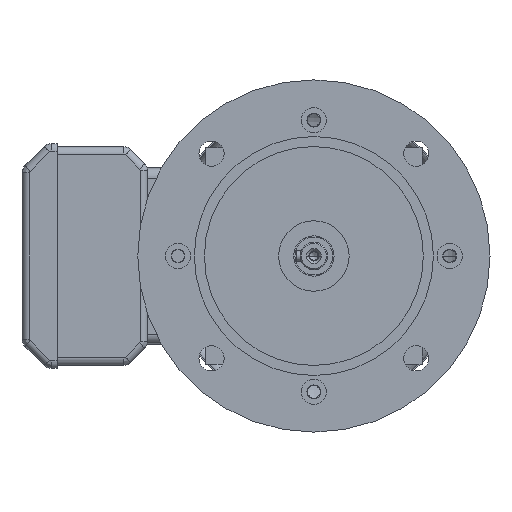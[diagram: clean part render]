
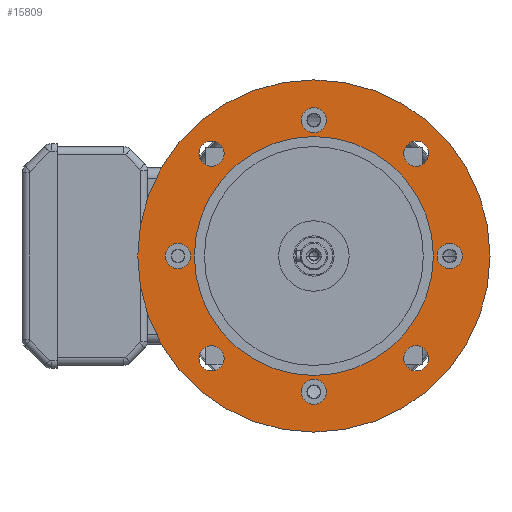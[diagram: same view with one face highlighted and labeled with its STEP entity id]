
A CAD part, left-side view. The second image highlights one B-rep face of the part: STEP entity #15809.
In plain terms, the highlighted planar face has unit normal (-1, 0, 0) as drawn and (0, 1, 0) by its records, which use the part's own axes.
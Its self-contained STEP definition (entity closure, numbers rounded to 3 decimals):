
#13926=CARTESIAN_POINT('',(0.,24.5,0.));
#13927=DIRECTION('',(0.,1.,0.));
#13928=DIRECTION('',(-1.,0.,0.));
#13929=AXIS2_PLACEMENT_3D('',#13926,#13927,#13928);
#13934=CARTESIAN_POINT('',(0.,24.5,0.));
#13935=DIRECTION('',(0.,-1.,0.));
#13936=DIRECTION('',(-1.,0.,0.));
#13937=AXIS2_PLACEMENT_3D('',#13934,#13935,#13936);
#13942=CARTESIAN_POINT('',(40.659,24.5,40.659));
#13943=DIRECTION('',(0.,1.,0.));
#13944=DIRECTION('',(1.,0.,0.));
#13945=AXIS2_PLACEMENT_3D('',#13942,#13943,#13944);
#13950=CARTESIAN_POINT('',(40.659,24.5,40.659));
#13951=DIRECTION('',(0.,1.,0.));
#13952=DIRECTION('',(-1.,0.,0.));
#13953=AXIS2_PLACEMENT_3D('',#13950,#13951,#13952);
#13958=CARTESIAN_POINT('',(40.659,24.5,-40.659));
#13959=DIRECTION('',(0.,1.,0.));
#13960=DIRECTION('',(1.,0.,0.));
#13961=AXIS2_PLACEMENT_3D('',#13958,#13959,#13960);
#13966=CARTESIAN_POINT('',(40.659,24.5,-40.659));
#13967=DIRECTION('',(0.,1.,0.));
#13968=DIRECTION('',(-1.,0.,0.));
#13969=AXIS2_PLACEMENT_3D('',#13966,#13967,#13968);
#13974=CARTESIAN_POINT('',(-40.659,24.5,-40.659));
#13975=DIRECTION('',(0.,1.,0.));
#13976=DIRECTION('',(1.,0.,0.));
#13977=AXIS2_PLACEMENT_3D('',#13974,#13975,#13976);
#13982=CARTESIAN_POINT('',(-40.659,24.5,-40.659));
#13983=DIRECTION('',(0.,1.,0.));
#13984=DIRECTION('',(-1.,0.,0.));
#13985=AXIS2_PLACEMENT_3D('',#13982,#13983,#13984);
#13990=CARTESIAN_POINT('',(-40.659,24.5,40.659));
#13991=DIRECTION('',(0.,1.,0.));
#13992=DIRECTION('',(1.,0.,0.));
#13993=AXIS2_PLACEMENT_3D('',#13990,#13991,#13992);
#13998=CARTESIAN_POINT('',(-40.659,24.5,40.659));
#13999=DIRECTION('',(0.,1.,0.));
#14000=DIRECTION('',(-1.,0.,0.));
#14001=AXIS2_PLACEMENT_3D('',#13998,#13999,#14000);
#14006=CARTESIAN_POINT('',(54.,24.5,0.));
#14007=DIRECTION('',(0.,1.,0.));
#14008=DIRECTION('',(1.,0.,0.));
#14009=AXIS2_PLACEMENT_3D('',#14006,#14007,#14008);
#14014=CARTESIAN_POINT('',(54.,24.5,0.));
#14015=DIRECTION('',(0.,1.,0.));
#14016=DIRECTION('',(-1.,0.,0.));
#14017=AXIS2_PLACEMENT_3D('',#14014,#14015,#14016);
#14022=CARTESIAN_POINT('',(-54.,24.5,0.));
#14023=DIRECTION('',(0.,1.,0.));
#14024=DIRECTION('',(1.,0.,0.));
#14025=AXIS2_PLACEMENT_3D('',#14022,#14023,#14024);
#14030=CARTESIAN_POINT('',(-54.,24.5,0.));
#14031=DIRECTION('',(0.,1.,0.));
#14032=DIRECTION('',(-1.,0.,0.));
#14033=AXIS2_PLACEMENT_3D('',#14030,#14031,#14032);
#14038=CARTESIAN_POINT('',(0.,24.5,-54.));
#14039=DIRECTION('',(0.,1.,0.));
#14040=DIRECTION('',(1.,0.,0.));
#14041=AXIS2_PLACEMENT_3D('',#14038,#14039,#14040);
#14046=CARTESIAN_POINT('',(0.,24.5,-54.));
#14047=DIRECTION('',(0.,1.,0.));
#14048=DIRECTION('',(-1.,0.,0.));
#14049=AXIS2_PLACEMENT_3D('',#14046,#14047,#14048);
#14054=CARTESIAN_POINT('',(0.,24.5,54.));
#14055=DIRECTION('',(0.,1.,0.));
#14056=DIRECTION('',(1.,0.,0.));
#14057=AXIS2_PLACEMENT_3D('',#14054,#14055,#14056);
#14062=CARTESIAN_POINT('',(0.,24.5,54.));
#14063=DIRECTION('',(0.,1.,0.));
#14064=DIRECTION('',(-1.,0.,0.));
#14065=AXIS2_PLACEMENT_3D('',#14062,#14063,#14064);
#14084=CARTESIAN_POINT('',(0.,24.5,0.));
#14085=DIRECTION('',(0.,-1.,0.));
#14086=DIRECTION('',(-1.,0.,0.));
#14087=AXIS2_PLACEMENT_3D('',#14084,#14085,#14086);
#14092=CARTESIAN_POINT('',(0.,24.5,0.));
#14093=DIRECTION('',(0.,1.,0.));
#14094=DIRECTION('',(-1.,0.,0.));
#14095=AXIS2_PLACEMENT_3D('',#14092,#14093,#14094);
#15428=CARTESIAN_POINT('',(-70.,24.5,0.));
#15430=VERTEX_POINT('',#15428);
#15436=CARTESIAN_POINT('',(70.,24.5,0.));
#15438=VERTEX_POINT('',#15436);
#15445=CARTESIAN_POINT('',(-47.5,24.5,0.));
#15447=VERTEX_POINT('',#15445);
#15449=CARTESIAN_POINT('',(47.5,24.5,0.));
#15451=VERTEX_POINT('',#15449);
#15552=CARTESIAN_POINT('',(59.,24.5,0.));
#15553=CARTESIAN_POINT('',(49.,24.5,0.));
#15554=VERTEX_POINT('',#15552);
#15555=VERTEX_POINT('',#15553);
#15556=CARTESIAN_POINT('',(-49.,24.5,0.));
#15557=CARTESIAN_POINT('',(-59.,24.5,0.));
#15558=VERTEX_POINT('',#15556);
#15559=VERTEX_POINT('',#15557);
#15560=CARTESIAN_POINT('',(5.,24.5,-54.));
#15561=CARTESIAN_POINT('',(-5.,24.5,-54.));
#15562=VERTEX_POINT('',#15560);
#15563=VERTEX_POINT('',#15561);
#15564=CARTESIAN_POINT('',(5.,24.5,54.));
#15565=CARTESIAN_POINT('',(-5.,24.5,54.));
#15566=VERTEX_POINT('',#15564);
#15567=VERTEX_POINT('',#15565);
#15584=CARTESIAN_POINT('',(45.659,24.5,40.659));
#15585=CARTESIAN_POINT('',(35.659,24.5,40.659));
#15586=VERTEX_POINT('',#15584);
#15587=VERTEX_POINT('',#15585);
#15588=CARTESIAN_POINT('',(45.659,24.5,-40.659));
#15589=CARTESIAN_POINT('',(35.659,24.5,-40.659));
#15590=VERTEX_POINT('',#15588);
#15591=VERTEX_POINT('',#15589);
#15592=CARTESIAN_POINT('',(-35.659,24.5,-40.659));
#15593=CARTESIAN_POINT('',(-45.659,24.5,-40.659));
#15594=VERTEX_POINT('',#15592);
#15595=VERTEX_POINT('',#15593);
#15596=CARTESIAN_POINT('',(-35.659,24.5,40.659));
#15597=CARTESIAN_POINT('',(-45.659,24.5,40.659));
#15598=VERTEX_POINT('',#15596);
#15599=VERTEX_POINT('',#15597);
#15746=CARTESIAN_POINT('',(0.,24.5,0.));
#15747=DIRECTION('',(0.,1.,0.));
#15748=DIRECTION('',(1.,0.,0.));
#15749=AXIS2_PLACEMENT_3D('',#15746,#15747,#15748);
#15750=PLANE('',#15749);
#15752=ORIENTED_EDGE('',*,*,#15751,.T.);
#15754=ORIENTED_EDGE('',*,*,#15753,.F.);
#15755=EDGE_LOOP('',(#15752,#15754));
#15756=FACE_OUTER_BOUND('',#15755,.F.);
#15757=ORIENTED_EDGE('',*,*,#15741,.T.);
#15758=ORIENTED_EDGE('',*,*,#15725,.F.);
#15759=EDGE_LOOP('',(#15757,#15758));
#15760=FACE_BOUND('',#15759,.F.);
#15762=ORIENTED_EDGE('',*,*,#15761,.T.);
#15764=ORIENTED_EDGE('',*,*,#15763,.T.);
#15765=EDGE_LOOP('',(#15762,#15764));
#15766=FACE_BOUND('',#15765,.F.);
#15768=ORIENTED_EDGE('',*,*,#15767,.T.);
#15770=ORIENTED_EDGE('',*,*,#15769,.T.);
#15771=EDGE_LOOP('',(#15768,#15770));
#15772=FACE_BOUND('',#15771,.F.);
#15774=ORIENTED_EDGE('',*,*,#15773,.T.);
#15776=ORIENTED_EDGE('',*,*,#15775,.T.);
#15777=EDGE_LOOP('',(#15774,#15776));
#15778=FACE_BOUND('',#15777,.F.);
#15780=ORIENTED_EDGE('',*,*,#15779,.T.);
#15782=ORIENTED_EDGE('',*,*,#15781,.T.);
#15783=EDGE_LOOP('',(#15780,#15782));
#15784=FACE_BOUND('',#15783,.F.);
#15786=ORIENTED_EDGE('',*,*,#15785,.T.);
#15788=ORIENTED_EDGE('',*,*,#15787,.T.);
#15789=EDGE_LOOP('',(#15786,#15788));
#15790=FACE_BOUND('',#15789,.F.);
#15792=ORIENTED_EDGE('',*,*,#15791,.T.);
#15794=ORIENTED_EDGE('',*,*,#15793,.T.);
#15795=EDGE_LOOP('',(#15792,#15794));
#15796=FACE_BOUND('',#15795,.F.);
#15798=ORIENTED_EDGE('',*,*,#15797,.T.);
#15800=ORIENTED_EDGE('',*,*,#15799,.T.);
#15801=EDGE_LOOP('',(#15798,#15800));
#15802=FACE_BOUND('',#15801,.F.);
#15804=ORIENTED_EDGE('',*,*,#15803,.T.);
#15806=ORIENTED_EDGE('',*,*,#15805,.T.);
#15807=EDGE_LOOP('',(#15804,#15806));
#15808=FACE_BOUND('',#15807,.F.);
#15809=ADVANCED_FACE('',(#15756,#15760,#15766,#15772,#15778,#15784,#15790,
#15796,#15802,#15808),#15750,.T.);
#13930=CIRCLE('',#13929,47.5);
#13938=CIRCLE('',#13937,47.5);
#13946=CIRCLE('',#13945,5.);
#13954=CIRCLE('',#13953,5.);
#13962=CIRCLE('',#13961,5.);
#13970=CIRCLE('',#13969,5.);
#13978=CIRCLE('',#13977,5.);
#13986=CIRCLE('',#13985,5.);
#13994=CIRCLE('',#13993,5.);
#14002=CIRCLE('',#14001,5.);
#14010=CIRCLE('',#14009,5.);
#14018=CIRCLE('',#14017,5.);
#14026=CIRCLE('',#14025,5.);
#14034=CIRCLE('',#14033,5.);
#14042=CIRCLE('',#14041,5.);
#14050=CIRCLE('',#14049,5.);
#14058=CIRCLE('',#14057,5.);
#14066=CIRCLE('',#14065,5.);
#14088=CIRCLE('',#14087,70.);
#14096=CIRCLE('',#14095,70.);
#15725=EDGE_CURVE('',#15447,#15451,#13938,.T.);
#15741=EDGE_CURVE('',#15447,#15451,#13930,.T.);
#15751=EDGE_CURVE('',#15430,#15438,#14088,.T.);
#15753=EDGE_CURVE('',#15430,#15438,#14096,.T.);
#15761=EDGE_CURVE('',#15586,#15587,#13946,.T.);
#15763=EDGE_CURVE('',#15587,#15586,#13954,.T.);
#15767=EDGE_CURVE('',#15590,#15591,#13962,.T.);
#15769=EDGE_CURVE('',#15591,#15590,#13970,.T.);
#15773=EDGE_CURVE('',#15594,#15595,#13978,.T.);
#15775=EDGE_CURVE('',#15595,#15594,#13986,.T.);
#15779=EDGE_CURVE('',#15598,#15599,#13994,.T.);
#15781=EDGE_CURVE('',#15599,#15598,#14002,.T.);
#15785=EDGE_CURVE('',#15554,#15555,#14010,.T.);
#15787=EDGE_CURVE('',#15555,#15554,#14018,.T.);
#15791=EDGE_CURVE('',#15558,#15559,#14026,.T.);
#15793=EDGE_CURVE('',#15559,#15558,#14034,.T.);
#15797=EDGE_CURVE('',#15562,#15563,#14042,.T.);
#15799=EDGE_CURVE('',#15563,#15562,#14050,.T.);
#15803=EDGE_CURVE('',#15566,#15567,#14058,.T.);
#15805=EDGE_CURVE('',#15567,#15566,#14066,.T.);
